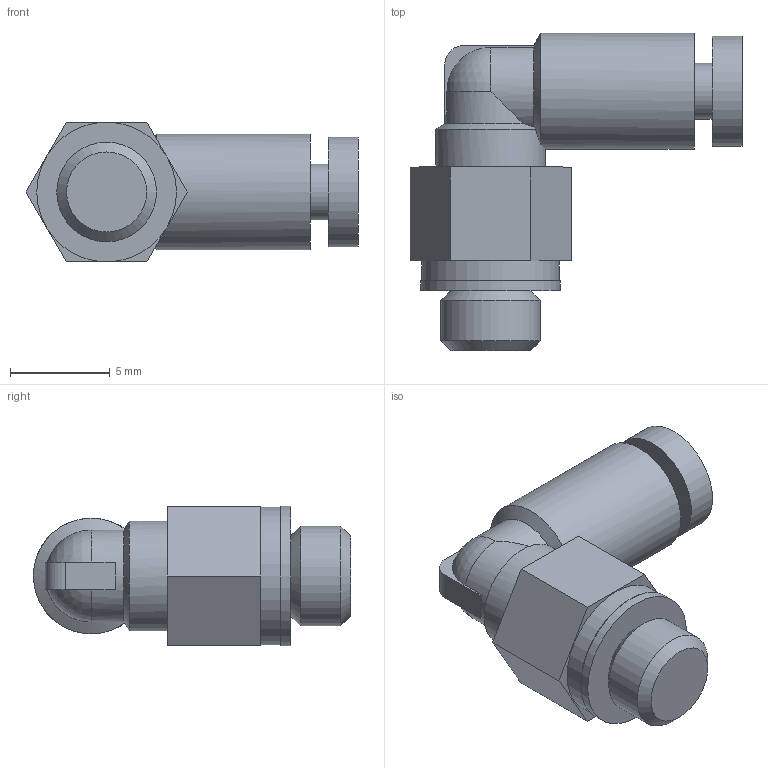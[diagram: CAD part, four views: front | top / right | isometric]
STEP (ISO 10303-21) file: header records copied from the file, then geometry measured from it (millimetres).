
FILE_DESCRIPTION(/* description */ ('STEP AP214'),/* implementation_level */ '2;1');
FILE_NAME(/* name */ 'KQ2L02-M5A',/* time_stamp */ '2023-03-09T07:25:26+01:00',/* author */ ('License CC BY-ND 4.0'),/* organization */ ('CADENAS'),/* preprocessor_version */ 'ST-DEVELOPER v18.102',/* originating_system */ 'PARTsolutions',/* authorisation */ ' ');
FILE_SCHEMA (('AUTOMOTIVE_DESIGN {1 0 10303 214 3 1 1}'));
Length unit declared in the file: millimetre
Products named in the file (1): KQ2L02-M5A
Bounding box: 16.64 x 15.9 x 7 mm (x, y, z)
Volume: 636.6 mm3; surface area: 673.2 mm2
Topology: 1 solids, 1 shells, 39 faces, 87 edges, 57 vertices
Faces by surface type: plane 21, cylinder 12, cone 4, sphere 2
Full cylindrical faces by diameter (mm): 2 x1, 2.8 x1, 5 x1, 5.5 x2, 5.8 x1, 6.9 x1, 7 x1
Entity records: 1063 total; most frequent: CARTESIAN_POINT 201, DIRECTION 178, ORIENTED_EDGE 150, EDGE_CURVE 75, AXIS2_PLACEMENT_3D 73, EDGE_LOOP 56, FACE_BOUND 56, VERTEX_POINT 55
